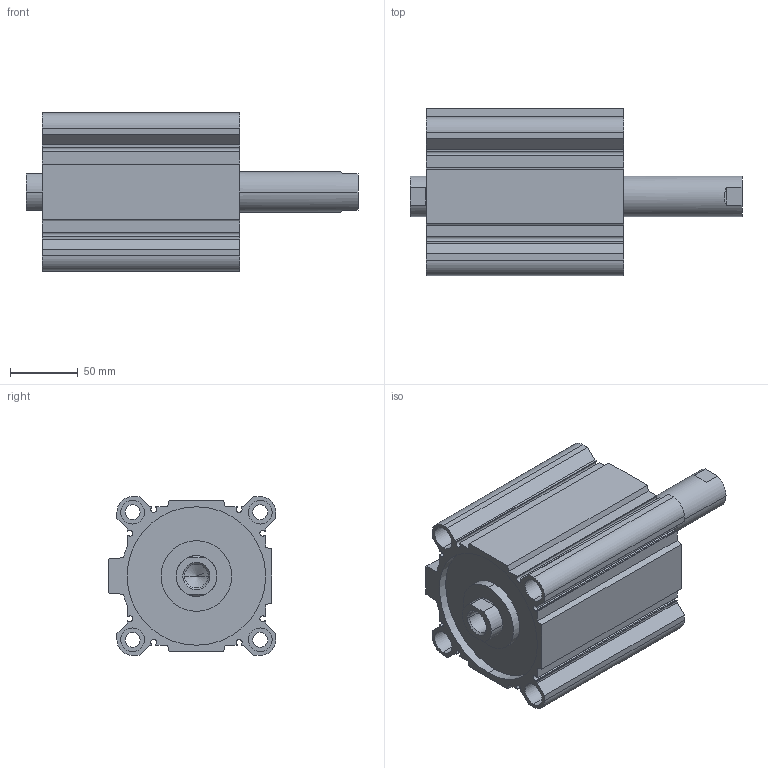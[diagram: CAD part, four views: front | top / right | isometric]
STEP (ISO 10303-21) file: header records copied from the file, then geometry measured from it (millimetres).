
FILE_DESCRIPTION (( 'STEP AP203' ), '1' );
FILE_NAME ('CCMB100-75F-P.STEP', '2020-08-05T11:55:41', ( '' ), ( '' ), 'SwSTEP 2.0', 'SolidWorks 2019', '' );
FILE_SCHEMA (( 'CONFIG_CONTROL_DESIGN' ));
Length unit declared in the file: millimetre
Products named in the file (1): CCMB100-75F-P
Bounding box: 244.5 x 123.5 x 117 mm (x, y, z)
Volume: 1126654.5 mm3; surface area: 244408.2 mm2
Topology: 2 solids, 2 shells, 178 faces, 456 edges, 298 vertices
Faces by surface type: plane 90, cylinder 76, cone 12
Entity records: 5495 total; most frequent: DIRECTION 970, CARTESIAN_POINT 941, ORIENTED_EDGE 904, EDGE_CURVE 452, AXIS2_PLACEMENT_3D 343, VERTEX_POINT 298, LINE 284, VECTOR 284
